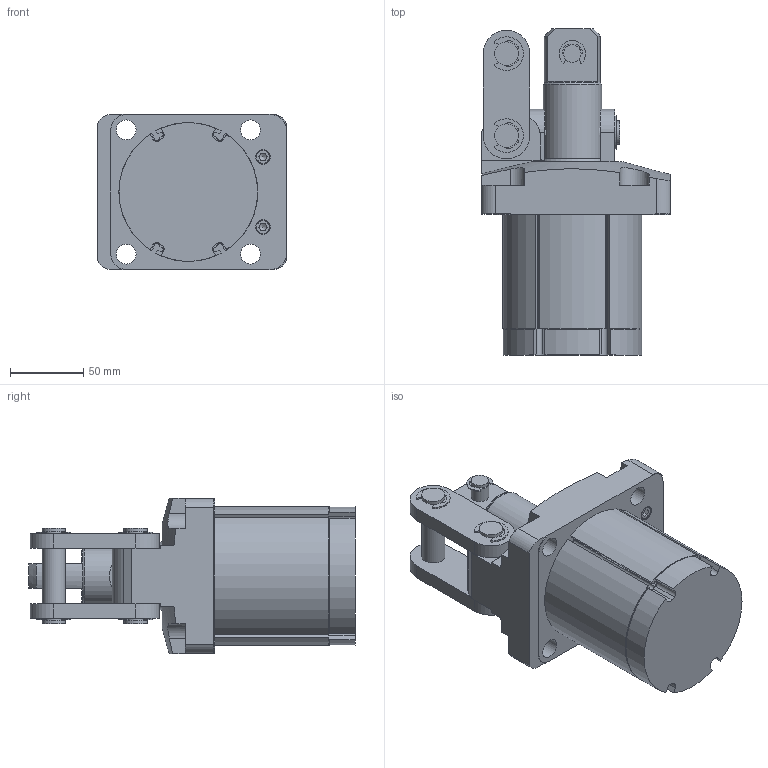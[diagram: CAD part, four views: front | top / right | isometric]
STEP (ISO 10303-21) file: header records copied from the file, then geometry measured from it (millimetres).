
FILE_DESCRIPTION( ( '' ), '1' );
FILE_NAME( 'W:/Catalogue/JSS/jss63-49/jss63-49.stp', '2008-05-26T04:22:55', ( '機械事業部産業機器グループ' ), ( '豊和工業株式会社' ), 'XStep 1.0', ' ', ' ' );
FILE_SCHEMA( ( 'CONFIG_CONTROL_DESIGN' ) );
Length unit declared in the file: millimetre
Products named in the file (7): Assem1; 1; 2; 3; 4; 5; 6
Bounding box: 129 x 223 x 106 mm (x, y, z)
Volume: 2236034.7 mm3; surface area: 329773.5 mm2
Topology: 14 solids, 16 shells, 766 faces, 2054 edges, 1348 vertices
Faces by surface type: plane 446, cylinder 272, cone 42, torus 6
Full cylindrical faces by diameter (mm): 8.3 x4, 9 x4, 10 x4, 12 x16, 13.5 x8, 14.5 x4, 16 x14, 38.5 x2, 40 x4, 42 x2, 47 x2, 52 x4, 63 x4
Entity records: 11921 total; most frequent: CARTESIAN_POINT 2443, DIRECTION 1967, ORIENTED_EDGE 1820, EDGE_CURVE 910, AXIS2_PLACEMENT_3D 718, VERTEX_POINT 628, LINE 531, VECTOR 531
